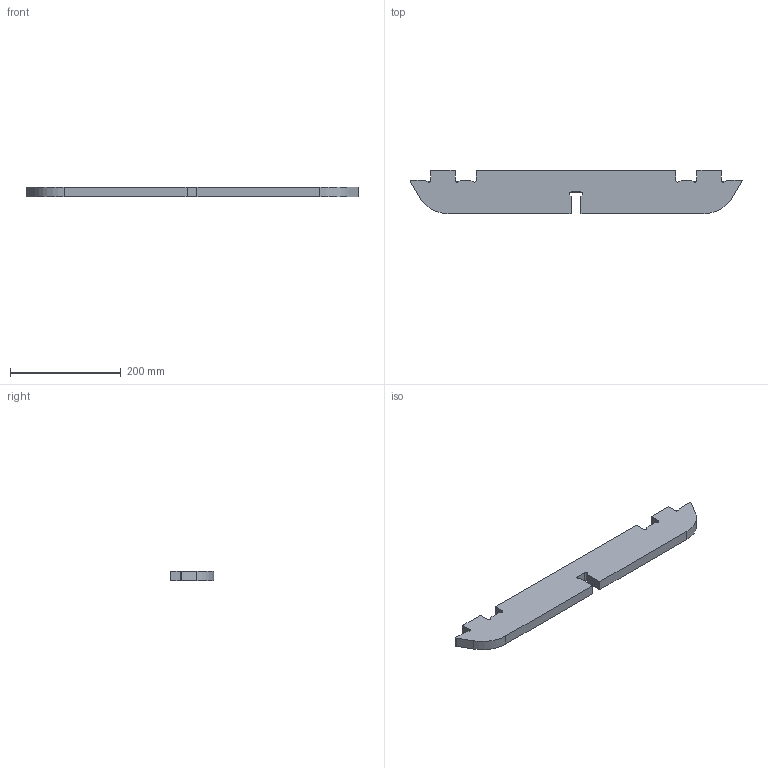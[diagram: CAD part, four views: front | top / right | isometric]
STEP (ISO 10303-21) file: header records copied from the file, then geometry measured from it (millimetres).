
FILE_DESCRIPTION (( 'STEP AP214' ), '1' );
FILE_NAME ('traverse-de-lit.STEP', '2018-04-07T05:53:57', ( '' ), ( '' ), 'SwSTEP 2.0', 'SolidWorks 2017', '' );
FILE_SCHEMA (( 'AUTOMOTIVE_DESIGN' ));
Length unit declared in the file: millimetre
Products named in the file (1): traverse-de-lit
Bounding box: 598.53 x 78 x 18 mm (x, y, z)
Volume: 733528.5 mm3; surface area: 107794.4 mm2
Topology: 1 solids, 1 shells, 44 faces, 126 edges, 84 vertices
Faces by surface type: plane 30, cylinder 14
Entity records: 1472 total; most frequent: CARTESIAN_POINT 255, ORIENTED_EDGE 252, DIRECTION 244, EDGE_CURVE 126, LINE 98, VECTOR 98, VERTEX_POINT 84, AXIS2_PLACEMENT_3D 73
